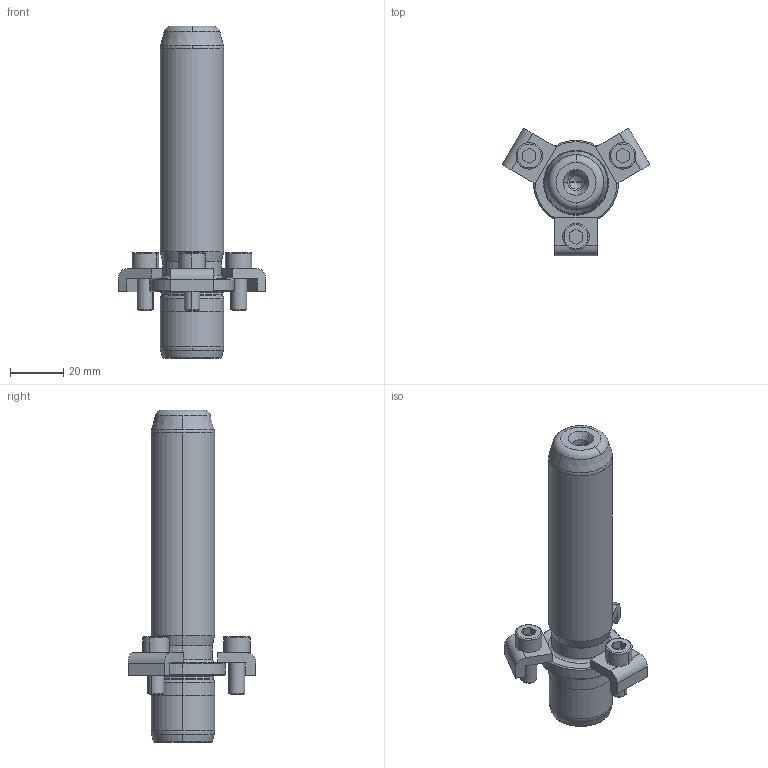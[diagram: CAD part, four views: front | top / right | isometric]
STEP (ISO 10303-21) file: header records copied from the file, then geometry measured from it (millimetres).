
FILE_DESCRIPTION((''),'2;1');
FILE_NAME('P21_024_100.stp','2008-12-23T09:26:21',(''),(''),'Mechanical Desktop 2009','Mechanical Desktop 2009',', , ');
FILE_SCHEMA(('CONFIG_CONTROL_DESIGN'));
Length unit declared in the file: millimetre
Products named in the file (2): Product; blmdl1
Assembly tree (1 placements, depth 2):
  Product
    blmdl1
Bounding box: 55.58 x 48.13 x 125 mm (x, y, z)
Volume: 61202.9 mm3; surface area: 16080.7 mm2
Topology: 7 solids, 7 shells, 163 faces, 417 edges, 269 vertices
Faces by surface type: plane 59, cylinder 44, cone 32, torus 14, bspline 14
Entity records: 5679 total; most frequent: CARTESIAN_POINT 1511, DIRECTION 914, ORIENTED_EDGE 826, EDGE_CURVE 413, AXIS2_PLACEMENT_3D 362, VERTEX_POINT 269, CIRCLE 211, VECTOR 190
